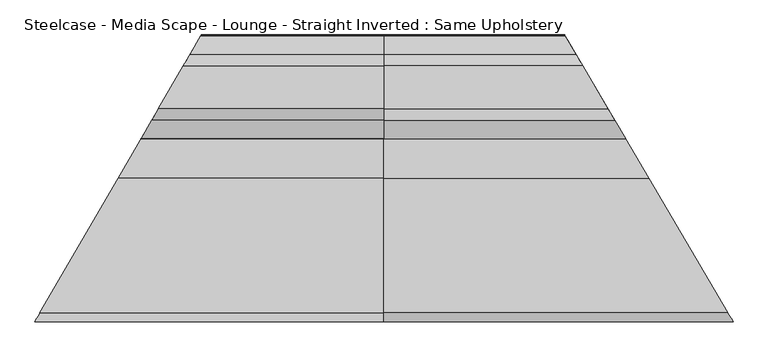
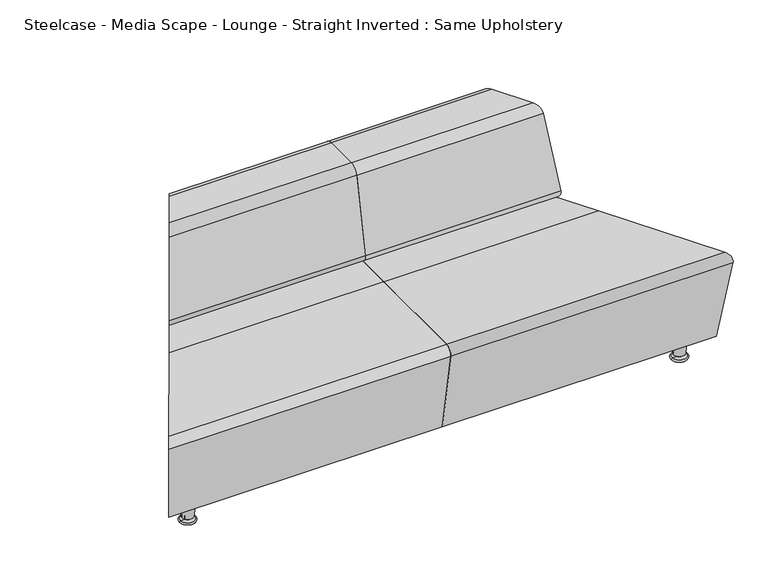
"""IFC4 building model written with IfcOpenShell, lengths in millimetres: furniture geometry, Steelcase - Media Scape - Lounge - Straight Inverted : Same Upholstery."""

from ifc_helpers import new_model, si_unit, point, frame, origin, place, context, project, spatial, polyline, circle_curve, ellipse_curve, trimmed, source, transform, mapped, element, save
from ifc_brep_helpers import plane_surface, cylinder_surface, revolved_surface, advanced_brep


def steelcase_media_scape_lounge_straight_inverted_same_f796253b(model_context):
    return source(origin(), model_context, "Body", "AdvancedBrep", [
        advanced_brep(
        [(1014.6953148, 744.618392, 735.1171206), (1014.6953148, 619.0683436, 735.1171206), (1014.6953148, 585.640659, 707.6422134), (1014.6953148, 531.7822003, 434.7626426), (1014.6953148, 556.7014693, 404.4443065), (1014.6953148, 806.9852663, 404.4443065), (1014.6953148, 831.9045354, 434.7626426), (1014.6953148, 778.0460766, 707.6422134), (451.5898434, 778.0460766, 707.6422134), (432.1879548, 744.618392, 735.1171206), (482.8500347, 831.9045354, 434.7626426), (468.3865477, 806.9852663, 404.4443065), (323.1183847, 556.7014693, 404.4443065), (308.6548977, 531.7822003, 434.7626426), (339.9150889, 585.640659, 707.6422134), (359.3169775, 619.0683436, 735.1171206)],
        [
            (0, 1),
            (1, 2, circle_curve(frame((1014.6953148, 619.0683436, 701.0445646), z_axis=(1.0, 0.0, 0.0), x_axis=(0.0, -1.0, 0.0)), 34.0725559)),
            (2, 3),
            (3, 4, circle_curve(frame((1014.6953148, 556.7014693, 429.8443065), z_axis=(1.0, 0.0, 0.0), x_axis=(0.0, -1.0, 0.0)), 25.4)),
            (4, 5),
            (5, 6, circle_curve(frame((1014.6953148, 806.9852663, 429.8443065), z_axis=(1.0, 0.0, 0.0), x_axis=(0.0, 1.0, 0.0)), 25.4)),
            (6, 7),
            (7, 0, circle_curve(frame((1014.6953148, 744.618392, 701.0445646), z_axis=(1.0, 0.0, 0.0), x_axis=(0.0, 1.0, 0.0)), 34.0725559)),
            (7, 8),
            (8, 9, ellipse_curve(frame((432.1879548, 744.618392, 701.0445646), z_axis=(0.8648758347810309, -0.501985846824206, 0.0), x_axis=(-0.5019858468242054, -0.864875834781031, 0.0)), 39.3958931, 34.0725559)),
            (9, 0),
            (6, 10),
            (10, 8),
            (5, 11),
            (11, 10, ellipse_curve(frame((468.3865477, 806.9852663, 429.8443065), z_axis=(0.8648758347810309, -0.501985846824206, 0.0), x_axis=(-0.5019858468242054, -0.864875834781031, 0.0)), 29.3683775, 25.4)),
            (4, 12),
            (12, 11),
            (3, 13),
            (13, 12, ellipse_curve(frame((323.1183847, 556.7014693, 429.8443065), z_axis=(0.8648758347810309, -0.501985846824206, 0.0), x_axis=(-0.5019858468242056, -0.864875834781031, 0.0)), 29.3683775, 25.4)),
            (2, 14),
            (14, 13),
            (1, 15),
            (15, 14, ellipse_curve(frame((359.3169775, 619.0683436, 701.0445646), z_axis=(0.8648758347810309, -0.501985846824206, 0.0), x_axis=(-0.5019858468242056, -0.864875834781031, 0.0)), 39.3958931, 34.0725559)),
            (9, 15),
        ],
        [
            plane_surface(frame((1014.6953148, 778.690948, 701.0445646), z_axis=(1.0, 0.0, 0.0), x_axis=(0.0, 0.0, 1.0))),
            cylinder_surface(frame((1014.6953148, 744.618392, 701.0445646), z_axis=(-1.0, 0.0, 0.0), x_axis=(0.0, 1.0, 0.0)), 34.0725559),
            plane_surface(frame((0.0, 778.0460766, 707.6422134), z_axis=(0.0, 0.9810735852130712, 0.19363527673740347), x_axis=(1.0, 0.0, 0.0))),
            cylinder_surface(frame((1014.6953148, 806.9852663, 429.8443065), z_axis=(-1.0, 0.0, 0.0), x_axis=(0.0, 1.0, 0.0)), 25.4),
            plane_surface(frame((0.0, 806.9852663, 404.4443065), z_axis=(0.0, 0.0, -1.0), x_axis=(1.0, 0.0, 0.0))),
            cylinder_surface(frame((1014.6953148, 556.7014693, 429.8443065), z_axis=(-1.0, 0.0, 0.0), x_axis=(0.0, -1.0, 0.0)), 25.4),
            plane_surface(frame((0.0, 531.7822003, 434.7626426), z_axis=(0.0, -0.9810735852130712, 0.19363527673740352), x_axis=(1.0, 0.0, 0.0))),
            cylinder_surface(frame((1014.6953148, 619.0683436, 701.0445646), z_axis=(-1.0, 0.0, 0.0), x_axis=(0.0, -1.0, 0.0)), 34.0725559),
            plane_surface(frame((0.0, 619.0683436, 735.1171206), z_axis=(0.0, 0.0, 1.0), x_axis=(1.0, 0.0, 0.0))),
            plane_surface(frame((-97.2912411, -167.6259759, 735.3711206), z_axis=(-0.8648758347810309, 0.501985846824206, 0.0), x_axis=(0.0, 0.0, -1.0))),
        ],
        [
            (0, [[1, 2, 3, 4, 5, 6, 7, 8]]),
            (1, [[-8, 9, 10, 11]]),
            (2, [[-7, 12, 13, -9]]),
            (3, [[-6, 14, 15, -12]]),
            (4, [[-5, 16, 17, -14]]),
            (5, [[-4, 18, 19, -16]]),
            (6, [[-3, 20, 21, -18]]),
            (7, [[-2, 22, 23, -20]]),
            (8, [[-1, -11, 24, -22]]),
            (9, [[-10, -13, -15, -17, -19, -21, -23, -24]]),
        ],
    ),
        advanced_brep(
        [(1014.6953148, 744.618392, 735.1171206), (1014.6953148, 778.0460766, 707.6422134), (1014.6953148, 831.9045354, 434.7626426), (1014.6953148, 806.9852663, 404.4443065), (1014.6953148, 556.7014693, 404.4443065), (1014.6953148, 531.7822003, 434.7626426), (1014.6953148, 585.640659, 707.6422134), (1014.6953148, 619.0683436, 735.1171206), (1666.696286, 619.0683436, 735.1171206), (1592.8622125, 744.618392, 735.1171206), (1686.3545988, 585.640659, 707.6422134), (1718.027939, 531.7822003, 434.7626426), (1703.373296, 556.7014693, 404.4443065), (1556.1852025, 806.9852663, 404.4443065), (1541.5305594, 831.9045354, 434.7626426), (1573.2038997, 778.0460766, 707.6422134)],
        [
            (0, 1, circle_curve(frame((1014.6953148, 744.618392, 701.0445646), z_axis=(-1.0, 0.0, 0.0), x_axis=(0.0, 1.0, 0.0)), 34.0725559)),
            (1, 2),
            (2, 3, circle_curve(frame((1014.6953148, 806.9852663, 429.8443065), z_axis=(-1.0, 0.0, 0.0), x_axis=(0.0, 1.0, 0.0)), 25.4)),
            (3, 4),
            (4, 5, circle_curve(frame((1014.6953148, 556.7014693, 429.8443065), z_axis=(-1.0, 0.0, 0.0), x_axis=(0.0, -1.0, 0.0)), 25.4)),
            (5, 6),
            (6, 7, circle_curve(frame((1014.6953148, 619.0683436, 701.0445646), z_axis=(-1.0, 0.0, 0.0), x_axis=(0.0, -1.0, 0.0)), 34.0725559)),
            (7, 0),
            (7, 8),
            (8, 9),
            (9, 0),
            (6, 10),
            (10, 8, ellipse_curve(frame((1666.696286, 619.0683436, 701.0445646), z_axis=(-0.8619909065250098, -0.5069237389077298, 0.0), x_axis=(0.5069237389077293, -0.8619909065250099, 0.0)), 39.5277441, 34.0725559)),
            (5, 11),
            (11, 10),
            (4, 12),
            (12, 11, ellipse_curve(frame((1703.373296, 556.7014693, 429.8443065), z_axis=(-0.8619909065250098, -0.5069237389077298, 0.0), x_axis=(0.5069237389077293, -0.8619909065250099, 0.0)), 29.4666682, 25.4)),
            (3, 13),
            (13, 12),
            (2, 14),
            (14, 13, ellipse_curve(frame((1556.1852025, 806.9852663, 429.8443065), z_axis=(-0.8619909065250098, -0.5069237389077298, 0.0), x_axis=(0.5069237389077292, -0.8619909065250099, 0.0)), 29.4666682, 25.4)),
            (1, 15),
            (15, 14),
            (9, 15, ellipse_curve(frame((1592.8622125, 744.618392, 701.0445646), z_axis=(-0.8619909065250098, -0.5069237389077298, 0.0), x_axis=(0.5069237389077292, -0.8619909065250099, 0.0)), 39.5277441, 34.0725559)),
        ],
        [
            plane_surface(frame((1014.6953148, 567.2050656, 735.1171206), z_axis=(-1.0, 0.0, 0.0), x_axis=(0.0, 1.0, 0.0))),
            plane_surface(frame((2041.4176852, 744.618392, 735.1171206), z_axis=(0.0, 0.0, 1.0), x_axis=(-1.0, 0.0, 0.0))),
            cylinder_surface(frame((1014.6953148, 619.0683436, 701.0445646), z_axis=(1.0, 0.0, 0.0), x_axis=(0.0, -1.0, 0.0)), 34.0725559),
            plane_surface(frame((2041.4176852, 585.640659, 707.6422134), z_axis=(0.0, -0.9810735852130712, 0.19363527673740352), x_axis=(-1.0, 0.0, 0.0))),
            cylinder_surface(frame((1014.6953148, 556.7014693, 429.8443065), z_axis=(1.0, 0.0, 0.0), x_axis=(0.0, -1.0, 0.0)), 25.4),
            plane_surface(frame((2041.4176852, 556.7014693, 404.4443065), z_axis=(0.0, 0.0, -1.0), x_axis=(-1.0, 0.0, 0.0))),
            cylinder_surface(frame((1014.6953148, 806.9852663, 429.8443065), z_axis=(1.0, 0.0, 0.0), x_axis=(0.0, 1.0, 0.0)), 25.4),
            plane_surface(frame((2041.4176852, 831.9045354, 434.7626426), z_axis=(0.0, 0.9810735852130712, 0.19363527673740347), x_axis=(-1.0, 0.0, 0.0))),
            cylinder_surface(frame((1014.6953148, 744.618392, 701.0445646), z_axis=(1.0, 0.0, 0.0), x_axis=(0.0, 1.0, 0.0)), 34.0725559),
            plane_surface(frame((1493.0162317, 914.4, 763.7516668), z_axis=(0.8619909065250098, 0.5069237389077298, 0.0), x_axis=(0.0, 0.0, -1.0))),
        ],
        [
            (0, [[1, 2, 3, 4, 5, 6, 7, 8]]),
            (1, [[-8, 9, 10, 11]]),
            (2, [[-7, 12, 13, -9]]),
            (3, [[-6, 14, 15, -12]]),
            (4, [[-5, 16, 17, -14]]),
            (5, [[-4, 18, 19, -16]]),
            (6, [[-3, 20, 21, -18]]),
            (7, [[-2, 22, 23, -20]]),
            (8, [[-1, -11, 24, -22]]),
            (9, [[-10, -13, -15, -17, -19, -21, -23, -24]]),
        ],
    ),
        advanced_brep(
        [(1014.6953148, 416.9525328, 404.4443065), (1014.6953148, 808.4584998, 404.4443065), (1014.6953148, 833.4999769, 374.7917281), (1014.6953148, 782.5280351, 74.6414242), (1014.6953148, 416.9525328, 74.6414242), (1014.6953148, 51.3770305, 74.6414242), (1014.6953148, 0.4050887, 374.7917281), (1014.6953148, 25.4465658, 404.4443065), (1785.5575196, 416.9525328, 404.4443065), (1555.3188163, 808.4584998, 404.4443065), (1540.5923045, 833.4999769, 374.7917281), (1570.5681281, 782.5280351, 74.6414242), (1785.5575196, 416.9525328, 74.6414242), (2000.5469111, 51.3770305, 74.6414242), (2030.5227347, 0.4050887, 374.7917281), (2015.7962229, 25.4465658, 404.4443065)],
        [
            (0, 1),
            (1, 2, circle_curve(frame((1014.6953148, 808.4584998, 379.0443065), z_axis=(-1.0, 0.0, 0.0), x_axis=(0.0, 1.0, 0.0)), 25.4)),
            (2, 3),
            (3, 4),
            (4, 5),
            (5, 6),
            (6, 7, circle_curve(frame((1014.6953148, 25.4465658, 379.0443065), z_axis=(-1.0, 0.0, 0.0), x_axis=(0.0, -1.0, 0.0)), 25.4)),
            (7, 0),
            (0, 8),
            (8, 9),
            (9, 1),
            (9, 10, ellipse_curve(frame((1555.3188163, 808.4584998, 379.0443065), z_axis=(-0.8619909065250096, -0.5069237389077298, 0.0), x_axis=(-0.5069237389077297, 0.8619909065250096, 0.0)), 29.4666682, 25.4)),
            (10, 2),
            (10, 11),
            (11, 3),
            (11, 12),
            (12, 4),
            (12, 13),
            (13, 5),
            (13, 14),
            (14, 6),
            (14, 15, ellipse_curve(frame((2015.7962229, 25.4465658, 379.0443065), z_axis=(-0.8619909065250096, -0.5069237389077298, 0.0), x_axis=(-0.5069237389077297, 0.8619909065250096, 0.0)), 29.4666682, 25.4)),
            (15, 7),
            (15, 8),
        ],
        [
            plane_surface(frame((1014.6953148, 891.4773142, 404.4443065), z_axis=(-1.0, 0.0, 0.0), x_axis=(0.0, 1.0, 0.0))),
            plane_surface(frame((1014.6953148, 416.9525328, 404.4443065), z_axis=(0.0, 0.0, 1.0), x_axis=(1.0, 0.0, 0.0))),
            cylinder_surface(frame((2041.4176852, 808.4584998, 379.0443065), z_axis=(-1.0, 0.0, 0.0), x_axis=(0.0, 1.0, 0.0)), 25.4),
            plane_surface(frame((1014.6953148, 833.4999769, 374.7917281), z_axis=(0.0, 0.9858849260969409, -0.1674243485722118), x_axis=(1.0, 0.0, 0.0))),
            plane_surface(frame((1014.6953148, 782.5280351, 74.6414242), z_axis=(0.0, 0.0, -1.0), x_axis=(1.0, 0.0, 0.0))),
            plane_surface(frame((1014.6953148, 416.9525328, 74.6414242), z_axis=(0.0, 0.0, -1.0), x_axis=(1.0, 0.0, 0.0))),
            plane_surface(frame((1014.6953148, 51.3770305, 74.6414242), z_axis=(0.0, -0.9858849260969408, -0.16742434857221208), x_axis=(1.0, 0.0, 0.0))),
            cylinder_surface(frame((2041.4176852, 25.4465658, 379.0443065), z_axis=(-1.0, 0.0, 0.0), x_axis=(0.0, -1.0, 0.0)), 25.4),
            plane_surface(frame((1014.6953148, 25.4465658, 404.4443065), z_axis=(0.0, 0.0, 1.0), x_axis=(1.0, 0.0, 0.0))),
            plane_surface(frame((1493.0162317, 914.4, 735.3711206), z_axis=(0.8619909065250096, 0.5069237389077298, 0.0), x_axis=(0.0, 0.0, -1.0))),
        ],
        [
            (0, [[1, 2, 3, 4, 5, 6, 7, 8]]),
            (1, [[-1, 9, 10, 11]]),
            (2, [[-2, -11, 12, 13]]),
            (3, [[-3, -13, 14, 15]]),
            (4, [[-4, -15, 16, 17]]),
            (5, [[-5, -17, 18, 19]]),
            (6, [[-6, -19, 20, 21]]),
            (7, [[-7, -21, 22, 23]]),
            (8, [[-8, -23, 24, -9]]),
            (9, [[-10, -24, -22, -20, -18, -16, -14, -12]]),
        ],
    ),
        advanced_brep(
        [(1014.6953148, 416.9525328, 404.4443065), (1014.6953148, 25.4465658, 404.4443065), (1014.6953148, 0.4050887, 374.7917281), (1014.6953148, 51.3770305, 74.6414242), (1014.6953148, 416.9525328, 74.6414242), (1014.6953148, 782.5280351, 74.6414242), (1014.6953148, 833.4999769, 374.7917281), (1014.6953148, 808.4584998, 404.4443065), (242.0061771, 416.9525328, 404.4443065), (14.7707214, 25.4465658, 404.4443065), (0.2363032, 0.4050887, 374.7917281), (29.8211203, 51.3770305, 74.6414242), (242.0061771, 416.9525328, 74.6414242), (454.1912338, 782.5280351, 74.6414242), (483.7760509, 833.4999769, 374.7917281), (469.2416327, 808.4584998, 404.4443065)],
        [
            (0, 1),
            (1, 2, circle_curve(frame((1014.6953148, 25.4465658, 379.0443065), z_axis=(1.0, 0.0, 0.0), x_axis=(0.0, -1.0, 0.0)), 25.4)),
            (2, 3),
            (3, 4),
            (4, 5),
            (5, 6),
            (6, 7, circle_curve(frame((1014.6953148, 808.4584998, 379.0443065), z_axis=(1.0, 0.0, 0.0), x_axis=(0.0, 1.0, 0.0)), 25.4)),
            (7, 0),
            (0, 8),
            (8, 9),
            (9, 1),
            (9, 10, ellipse_curve(frame((14.7707214, 25.4465658, 379.0443065), z_axis=(0.8648758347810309, -0.501985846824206, 0.0), x_axis=(0.5019858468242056, 0.864875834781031, 0.0)), 29.3683775, 25.4)),
            (10, 2),
            (10, 11),
            (11, 3),
            (11, 12),
            (12, 4),
            (12, 13),
            (13, 5),
            (13, 14),
            (14, 6),
            (14, 15, ellipse_curve(frame((469.2416327, 808.4584998, 379.0443065), z_axis=(0.8648758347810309, -0.501985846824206, 0.0), x_axis=(0.5019858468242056, 0.864875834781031, 0.0)), 29.3683775, 25.4)),
            (15, 7),
            (15, 8),
        ],
        [
            plane_surface(frame((1014.6953148, -57.5722485, 404.4443065), z_axis=(1.0, 0.0, 0.0), x_axis=(0.0, -1.0, 0.0))),
            plane_surface(frame((1014.6953148, 416.9525328, 404.4443065), z_axis=(0.0, 0.0, 1.0), x_axis=(-1.0, 0.0, 0.0))),
            cylinder_surface(frame((0.0, 25.4465658, 379.0443065), z_axis=(1.0, 0.0, 0.0), x_axis=(0.0, -1.0, 0.0)), 25.4),
            plane_surface(frame((1014.6953148, 0.4050887, 374.7917281), z_axis=(0.0, -0.9858849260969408, -0.16742434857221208), x_axis=(-1.0, 0.0, 0.0))),
            plane_surface(frame((1014.6953148, 51.3770305, 74.6414242), z_axis=(0.0, 0.0, -1.0), x_axis=(-1.0, 0.0, 0.0))),
            plane_surface(frame((1014.6953148, 416.9525328, 74.6414242), z_axis=(0.0, 0.0, -1.0), x_axis=(-1.0, 0.0, 0.0))),
            plane_surface(frame((1014.6953148, 782.5280351, 74.6414242), z_axis=(0.0, 0.9858849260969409, -0.1674243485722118), x_axis=(-1.0, 0.0, 0.0))),
            cylinder_surface(frame((0.0, 808.4584998, 379.0443065), z_axis=(1.0, 0.0, 0.0), x_axis=(0.0, 1.0, 0.0)), 25.4),
            plane_surface(frame((1014.6953148, 808.4584998, 404.4443065), z_axis=(0.0, 0.0, 1.0), x_axis=(-1.0, 0.0, 0.0))),
            plane_surface(frame((-97.2912411, -167.6259759, 735.3711206), z_axis=(-0.8648758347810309, 0.501985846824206, 0.0), x_axis=(0.0, 0.0, -1.0))),
        ],
        [
            (0, [[1, 2, 3, 4, 5, 6, 7, 8]]),
            (1, [[-1, 9, 10, 11]]),
            (2, [[-2, -11, 12, 13]]),
            (3, [[-3, -13, 14, 15]]),
            (4, [[-4, -15, 16, 17]]),
            (5, [[-5, -17, 18, 19]]),
            (6, [[-6, -19, 20, 21]]),
            (7, [[-7, -21, 22, 23]]),
            (8, [[-8, -23, 24, -9]]),
            (9, [[-10, -24, -22, -20, -18, -16, -14, -12]]),
        ],
    ),
        advanced_brep(
        [(1545.570234, 722.5255264, 74.1561731), (1569.3571541, 722.5255264, 74.1561731), (1521.7833138, 722.5255264, 74.1561731), (1519.5165917, 722.5255264, 0.0), (1571.6238762, 722.5255264, 0.0), (1545.570234, 722.5255264, 0.0), (1519.5165917, 722.5255264, 6.3788302), (1571.6238762, 722.5255264, 6.3788302), (1536.045234, 722.5255264, 6.3788302), (1555.095234, 722.5255264, 6.3788302), (1536.045234, 722.5255264, 17.057519), (1555.095234, 722.5255264, 17.057519), (1524.6151177, 722.5255264, 17.057519), (1566.5253502, 722.5255264, 17.057519)],
        [
            (0, 1),
            (1, 2, circle_curve(frame((1545.570234, 722.5255264, 74.1561731), z_axis=(0.0, 0.0, 1.0), x_axis=(1.0, 0.0, 0.0)), 23.7869202)),
            (2, 0),
            (2, 1, circle_curve(frame((1545.570234, 722.5255264, 74.1561731), z_axis=(0.0, 0.0, 1.0), x_axis=(1.0, 0.0, 0.0)), 23.7869202)),
            (3, 4, circle_curve(frame((1545.570234, 722.5255264, 0.0), z_axis=(0.0, 0.0, -1.0), x_axis=(1.0, 0.0, 0.0)), 26.0536423)),
            (4, 5),
            (5, 3),
            (4, 3, circle_curve(frame((1545.570234, 722.5255264, 0.0), z_axis=(0.0, 0.0, -1.0), x_axis=(1.0, 0.0, 0.0)), 26.0536423)),
            (6, 7, circle_curve(frame((1545.570234, 722.5255264, 6.3788302), z_axis=(0.0, 0.0, -1.0), x_axis=(1.0, 0.0, 0.0)), 26.0536423)),
            (7, 4, circle_curve(frame((1571.6238762, 722.5255264, 3.1894151), z_axis=(0.0, 1.0, 0.0), x_axis=(1.0, 0.0, 0.0)), 3.1894151)),
            (3, 6, circle_curve(frame((1519.5165917, 722.5255264, 3.1894151), z_axis=(0.0, 1.0, 0.0), x_axis=(-1.0, 0.0, 0.0)), 3.1894151)),
            (7, 6, circle_curve(frame((1545.570234, 722.5255264, 6.3788302), z_axis=(0.0, 0.0, -1.0), x_axis=(1.0, 0.0, 0.0)), 26.0536423)),
            (8, 9, circle_curve(frame((1545.570234, 722.5255264, 6.3788302), z_axis=(0.0, 0.0, -1.0), x_axis=(1.0, 0.0, 0.0)), 9.525)),
            (9, 7),
            (6, 8),
            (9, 8, circle_curve(frame((1545.570234, 722.5255264, 6.3788302), z_axis=(0.0, 0.0, -1.0), x_axis=(1.0, 0.0, 0.0)), 9.525)),
            (10, 11, circle_curve(frame((1545.570234, 722.5255264, 17.057519), z_axis=(0.0, 0.0, -1.0), x_axis=(1.0, 0.0, 0.0)), 9.525)),
            (11, 9),
            (8, 10),
            (11, 10, circle_curve(frame((1545.570234, 722.5255264, 17.057519), z_axis=(0.0, 0.0, -1.0), x_axis=(1.0, 0.0, 0.0)), 9.525)),
            (12, 13, circle_curve(frame((1545.570234, 722.5255264, 17.057519), z_axis=(0.0, 0.0, -1.0), x_axis=(1.0, 0.0, 0.0)), 20.9551163)),
            (13, 11),
            (10, 12),
            (13, 12, circle_curve(frame((1545.570234, 722.5255264, 17.057519), z_axis=(0.0, 0.0, -1.0), x_axis=(1.0, 0.0, 0.0)), 20.9551163)),
            (1, 13),
            (12, 2),
        ],
        [
            plane_surface(frame((1545.570234, 722.5255264, 74.1561731), z_axis=(0.0, 0.0, 1.0), x_axis=(1.0, 0.0, 0.0))),
            plane_surface(frame((1545.570234, 722.5255264, 0.0), z_axis=(0.0, 0.0, -1.0), x_axis=(1.0, 0.0, 0.0))),
            revolved_surface(trimmed(ellipse_curve(frame((1571.6238762, 722.5255264, 3.1894151), z_axis=(0.0, -1.0, 0.0), x_axis=(1.0, 0.0, 0.0)), 3.1894151, 3.1894151), [point((1571.6238762, 722.5255264, 0.0))], [point((1571.6238762, 722.5255264, 6.3788302))], True, "CARTESIAN"), (1545.570234, 722.5255264, 61.4561731), (0.0, 0.0, 1.0)),
            plane_surface(frame((1545.570234, 722.5255264, 6.3788302), z_axis=(0.0, 0.0, 1.0), x_axis=(1.0, 0.0, 0.0))),
            cylinder_surface(frame((1545.570234, 722.5255264, 61.4561731), z_axis=(0.0, 0.0, 1.0), x_axis=(1.0, 0.0, 0.0)), 9.525),
            plane_surface(frame((1545.570234, 722.5255264, 17.057519), z_axis=(0.0, 0.0, -1.0), x_axis=(1.0, 0.0, 0.0))),
            revolved_surface(polyline([(1566.5253502, 722.5255264, 17.057519), (1569.3571541, 722.5255264, 74.1561731)]), (1545.570234, 722.5255264, 61.4561731), (0.0, 0.0, 1.0)),
        ],
        [
            (0, [[1, 2, 3]]),
            (0, [[-3, 4, -1]]),
            (1, [[5, 6, 7]]),
            (1, [[8, -7, -6]]),
            (2, [[9, 10, -5, 11]]),
            (2, [[12, -11, -8, -10]]),
            (3, [[13, 14, -9, 15]]),
            (3, [[16, -15, -12, -14]]),
            (4, [[17, 18, -13, 19]]),
            (4, [[20, -19, -16, -18]]),
            (5, [[21, 22, -17, 23]]),
            (5, [[24, -23, -20, -22]]),
            (6, [[-2, 25, -21, 26]]),
            (6, [[-4, -26, -24, -25]]),
        ],
    ),
        advanced_brep(
        [(1896.0976754, 102.3340218, 74.1561731), (1919.8845955, 102.3340218, 74.1561731), (1872.3107552, 102.3340218, 74.1561731), (1870.0440331, 102.3340218, 0.0), (1922.1513176, 102.3340218, 0.0), (1896.0976754, 102.3340218, 0.0), (1870.0440331, 102.3340218, 6.3788302), (1922.1513176, 102.3340218, 6.3788302), (1886.5726754, 102.3340218, 6.3788302), (1905.6226754, 102.3340218, 6.3788302), (1886.5726754, 102.3340218, 17.057519), (1905.6226754, 102.3340218, 17.057519), (1875.1425591, 102.3340218, 17.057519), (1917.0527916, 102.3340218, 17.057519)],
        [
            (0, 1),
            (1, 2, circle_curve(frame((1896.0976754, 102.3340218, 74.1561731), z_axis=(0.0, 0.0, 1.0), x_axis=(1.0, 0.0, 0.0)), 23.7869202)),
            (2, 0),
            (2, 1, circle_curve(frame((1896.0976754, 102.3340218, 74.1561731), z_axis=(0.0, 0.0, 1.0), x_axis=(1.0, 0.0, 0.0)), 23.7869202)),
            (3, 4, circle_curve(frame((1896.0976754, 102.3340218, 0.0), z_axis=(0.0, 0.0, -1.0), x_axis=(1.0, 0.0, 0.0)), 26.0536423)),
            (4, 5),
            (5, 3),
            (4, 3, circle_curve(frame((1896.0976754, 102.3340218, 0.0), z_axis=(0.0, 0.0, -1.0), x_axis=(1.0, 0.0, 0.0)), 26.0536423)),
            (6, 7, circle_curve(frame((1896.0976754, 102.3340218, 6.3788302), z_axis=(0.0, 0.0, -1.0), x_axis=(1.0, 0.0, 0.0)), 26.0536423)),
            (7, 4, circle_curve(frame((1922.1513176, 102.3340218, 3.1894151), z_axis=(0.0, 1.0, 0.0), x_axis=(1.0, 0.0, 0.0)), 3.1894151)),
            (3, 6, circle_curve(frame((1870.0440331, 102.3340218, 3.1894151), z_axis=(0.0, 1.0, 0.0), x_axis=(-1.0, 0.0, 0.0)), 3.1894151)),
            (7, 6, circle_curve(frame((1896.0976754, 102.3340218, 6.3788302), z_axis=(0.0, 0.0, -1.0), x_axis=(1.0, 0.0, 0.0)), 26.0536423)),
            (8, 9, circle_curve(frame((1896.0976754, 102.3340218, 6.3788302), z_axis=(0.0, 0.0, -1.0), x_axis=(1.0, 0.0, 0.0)), 9.525)),
            (9, 7),
            (6, 8),
            (9, 8, circle_curve(frame((1896.0976754, 102.3340218, 6.3788302), z_axis=(0.0, 0.0, -1.0), x_axis=(1.0, 0.0, 0.0)), 9.525)),
            (10, 11, circle_curve(frame((1896.0976754, 102.3340218, 17.057519), z_axis=(0.0, 0.0, -1.0), x_axis=(1.0, 0.0, 0.0)), 9.525)),
            (11, 9),
            (8, 10),
            (11, 10, circle_curve(frame((1896.0976754, 102.3340218, 17.057519), z_axis=(0.0, 0.0, -1.0), x_axis=(1.0, 0.0, 0.0)), 9.525)),
            (12, 13, circle_curve(frame((1896.0976754, 102.3340218, 17.057519), z_axis=(0.0, 0.0, -1.0), x_axis=(1.0, 0.0, 0.0)), 20.9551163)),
            (13, 11),
            (10, 12),
            (13, 12, circle_curve(frame((1896.0976754, 102.3340218, 17.057519), z_axis=(0.0, 0.0, -1.0), x_axis=(1.0, 0.0, 0.0)), 20.9551163)),
            (1, 13),
            (12, 2),
        ],
        [
            plane_surface(frame((1896.0976754, 102.3340218, 74.1561731), z_axis=(0.0, 0.0, 1.0), x_axis=(1.0, 0.0, 0.0))),
            plane_surface(frame((1896.0976754, 102.3340218, 0.0), z_axis=(0.0, 0.0, -1.0), x_axis=(1.0, 0.0, 0.0))),
            revolved_surface(trimmed(ellipse_curve(frame((1922.1513176, 102.3340218, 3.1894151), z_axis=(0.0, -1.0, 0.0), x_axis=(1.0, 0.0, 0.0)), 3.1894151, 3.1894151), [point((1922.1513176, 102.3340218, 0.0))], [point((1922.1513176, 102.3340218, 6.3788302))], True, "CARTESIAN"), (1896.0976754, 102.3340218, 61.4561731), (0.0, 0.0, 1.0)),
            plane_surface(frame((1896.0976754, 102.3340218, 6.3788302), z_axis=(0.0, 0.0, 1.0), x_axis=(1.0, 0.0, 0.0))),
            cylinder_surface(frame((1896.0976754, 102.3340218, 61.4561731), z_axis=(0.0, 0.0, 1.0), x_axis=(1.0, 0.0, 0.0)), 9.525),
            plane_surface(frame((1896.0976754, 102.3340218, 17.057519), z_axis=(0.0, 0.0, -1.0), x_axis=(1.0, 0.0, 0.0))),
            revolved_surface(polyline([(1917.0527916, 102.3340218, 17.057519), (1919.8845955, 102.3340218, 74.1561731)]), (1896.0976754, 102.3340218, 61.4561731), (0.0, 0.0, 1.0)),
        ],
        [
            (0, [[1, 2, 3]]),
            (0, [[-3, 4, -1]]),
            (1, [[5, 6, 7]]),
            (1, [[8, -7, -6]]),
            (2, [[9, 10, -5, 11]]),
            (2, [[12, -11, -8, -10]]),
            (3, [[13, 14, -9, 15]]),
            (3, [[16, -15, -12, -14]]),
            (4, [[17, 18, -13, 19]]),
            (4, [[20, -19, -16, -18]]),
            (5, [[21, 22, -17, 23]]),
            (5, [[24, -23, -20, -22]]),
            (6, [[-2, 25, -21, 26]]),
            (6, [[-4, -26, -24, -25]]),
        ],
    ),
        advanced_brep(
        [(126.8093937, 102.277914, 74.1561731), (150.5963139, 102.277914, 74.1561731), (103.0224736, 102.277914, 74.1561731), (100.7557515, 102.277914, 0.0), (152.863036, 102.277914, 0.0), (126.8093937, 102.277914, 0.0), (100.7557515, 102.277914, 6.3788302), (152.863036, 102.277914, 6.3788302), (117.2843937, 102.277914, 6.3788302), (136.3343937, 102.277914, 6.3788302), (117.2843937, 102.277914, 17.057519), (136.3343937, 102.277914, 17.057519), (105.8542775, 102.277914, 17.057519), (147.76451, 102.277914, 17.057519)],
        [
            (0, 1),
            (1, 2, circle_curve(frame((126.8093937, 102.277914, 74.1561731), z_axis=(0.0, 0.0, 1.0), x_axis=(1.0, 0.0, 0.0)), 23.7869202)),
            (2, 0),
            (2, 1, circle_curve(frame((126.8093937, 102.277914, 74.1561731), z_axis=(0.0, 0.0, 1.0), x_axis=(1.0, 0.0, 0.0)), 23.7869202)),
            (3, 4, circle_curve(frame((126.8093937, 102.277914, 0.0), z_axis=(0.0, 0.0, -1.0), x_axis=(1.0, 0.0, 0.0)), 26.0536423)),
            (4, 5),
            (5, 3),
            (4, 3, circle_curve(frame((126.8093937, 102.277914, 0.0), z_axis=(0.0, 0.0, -1.0), x_axis=(1.0, 0.0, 0.0)), 26.0536423)),
            (6, 7, circle_curve(frame((126.8093937, 102.277914, 6.3788302), z_axis=(0.0, 0.0, -1.0), x_axis=(1.0, 0.0, 0.0)), 26.0536423)),
            (7, 4, circle_curve(frame((152.863036, 102.277914, 3.1894151), z_axis=(0.0, 1.0, 0.0), x_axis=(1.0, 0.0, 0.0)), 3.1894151)),
            (3, 6, circle_curve(frame((100.7557515, 102.277914, 3.1894151), z_axis=(0.0, 1.0, 0.0), x_axis=(-1.0, 0.0, 0.0)), 3.1894151)),
            (7, 6, circle_curve(frame((126.8093937, 102.277914, 6.3788302), z_axis=(0.0, 0.0, -1.0), x_axis=(1.0, 0.0, 0.0)), 26.0536423)),
            (8, 9, circle_curve(frame((126.8093937, 102.277914, 6.3788302), z_axis=(0.0, 0.0, -1.0), x_axis=(1.0, 0.0, 0.0)), 9.525)),
            (9, 7),
            (6, 8),
            (9, 8, circle_curve(frame((126.8093937, 102.277914, 6.3788302), z_axis=(0.0, 0.0, -1.0), x_axis=(1.0, 0.0, 0.0)), 9.525)),
            (10, 11, circle_curve(frame((126.8093937, 102.277914, 17.057519), z_axis=(0.0, 0.0, -1.0), x_axis=(1.0, 0.0, 0.0)), 9.525)),
            (11, 9),
            (8, 10),
            (11, 10, circle_curve(frame((126.8093937, 102.277914, 17.057519), z_axis=(0.0, 0.0, -1.0), x_axis=(1.0, 0.0, 0.0)), 9.525)),
            (12, 13, circle_curve(frame((126.8093937, 102.277914, 17.057519), z_axis=(0.0, 0.0, -1.0), x_axis=(1.0, 0.0, 0.0)), 20.9551163)),
            (13, 11),
            (10, 12),
            (13, 12, circle_curve(frame((126.8093937, 102.277914, 17.057519), z_axis=(0.0, 0.0, -1.0), x_axis=(1.0, 0.0, 0.0)), 20.9551163)),
            (1, 13),
            (12, 2),
        ],
        [
            plane_surface(frame((126.8093937, 102.277914, 74.1561731), z_axis=(0.0, 0.0, 1.0), x_axis=(1.0, 0.0, 0.0))),
            plane_surface(frame((126.8093937, 102.277914, 0.0), z_axis=(0.0, 0.0, -1.0), x_axis=(1.0, 0.0, 0.0))),
            revolved_surface(trimmed(ellipse_curve(frame((152.863036, 102.277914, 3.1894151), z_axis=(0.0, -1.0, 0.0), x_axis=(1.0, 0.0, 0.0)), 3.1894151, 3.1894151), [point((152.863036, 102.277914, 0.0))], [point((152.863036, 102.277914, 6.3788302))], True, "CARTESIAN"), (126.8093937, 102.277914, 61.4561731), (0.0, 0.0, 1.0)),
            plane_surface(frame((126.8093937, 102.277914, 6.3788302), z_axis=(0.0, 0.0, 1.0), x_axis=(1.0, 0.0, 0.0))),
            cylinder_surface(frame((126.8093937, 102.277914, 61.4561731), z_axis=(0.0, 0.0, 1.0), x_axis=(1.0, 0.0, 0.0)), 9.525),
            plane_surface(frame((126.8093937, 102.277914, 17.057519), z_axis=(0.0, 0.0, -1.0), x_axis=(1.0, 0.0, 0.0))),
            revolved_surface(polyline([(147.76451, 102.277914, 17.057519), (150.5963139, 102.277914, 74.1561731)]), (126.8093937, 102.277914, 61.4561731), (0.0, 0.0, 1.0)),
        ],
        [
            (0, [[1, 2, 3]]),
            (0, [[-3, 4, -1]]),
            (1, [[5, 6, 7]]),
            (1, [[8, -7, -6]]),
            (2, [[9, 10, -5, 11]]),
            (2, [[12, -11, -8, -10]]),
            (3, [[13, 14, -9, 15]]),
            (3, [[16, -15, -12, -14]]),
            (4, [[17, 18, -13, 19]]),
            (4, [[20, -19, -16, -18]]),
            (5, [[21, 22, -17, 23]]),
            (5, [[24, -23, -20, -22]]),
            (6, [[-2, 25, -21, 26]]),
            (6, [[-4, -26, -24, -25]]),
        ],
    ),
        advanced_brep(
        [(477.8028512, 722.5255264, 74.1561731), (501.5897713, 722.5255264, 74.1561731), (454.015931, 722.5255264, 74.1561731), (451.7492089, 722.5255264, 0.0), (503.8564934, 722.5255264, 0.0), (477.8028512, 722.5255264, 0.0), (451.7492089, 722.5255264, 6.3788302), (503.8564934, 722.5255264, 6.3788302), (468.2778512, 722.5255264, 6.3788302), (487.3278512, 722.5255264, 6.3788302), (468.2778512, 722.5255264, 17.057519), (487.3278512, 722.5255264, 17.057519), (456.8477349, 722.5255264, 17.057519), (498.7579674, 722.5255264, 17.057519)],
        [
            (0, 1),
            (1, 2, circle_curve(frame((477.8028512, 722.5255264, 74.1561731), z_axis=(0.0, 0.0, 1.0), x_axis=(1.0, 0.0, 0.0)), 23.7869202)),
            (2, 0),
            (2, 1, circle_curve(frame((477.8028512, 722.5255264, 74.1561731), z_axis=(0.0, 0.0, 1.0), x_axis=(1.0, 0.0, 0.0)), 23.7869202)),
            (3, 4, circle_curve(frame((477.8028512, 722.5255264, 0.0), z_axis=(0.0, 0.0, -1.0), x_axis=(1.0, 0.0, 0.0)), 26.0536423)),
            (4, 5),
            (5, 3),
            (4, 3, circle_curve(frame((477.8028512, 722.5255264, 0.0), z_axis=(0.0, 0.0, -1.0), x_axis=(1.0, 0.0, 0.0)), 26.0536423)),
            (6, 7, circle_curve(frame((477.8028512, 722.5255264, 6.3788302), z_axis=(0.0, 0.0, -1.0), x_axis=(1.0, 0.0, 0.0)), 26.0536423)),
            (7, 4, circle_curve(frame((503.8564934, 722.5255264, 3.1894151), z_axis=(0.0, 1.0, 0.0), x_axis=(1.0, 0.0, 0.0)), 3.1894151)),
            (3, 6, circle_curve(frame((451.7492089, 722.5255264, 3.1894151), z_axis=(0.0, 1.0, 0.0), x_axis=(-1.0, 0.0, 0.0)), 3.1894151)),
            (7, 6, circle_curve(frame((477.8028512, 722.5255264, 6.3788302), z_axis=(0.0, 0.0, -1.0), x_axis=(1.0, 0.0, 0.0)), 26.0536423)),
            (8, 9, circle_curve(frame((477.8028512, 722.5255264, 6.3788302), z_axis=(0.0, 0.0, -1.0), x_axis=(1.0, 0.0, 0.0)), 9.525)),
            (9, 7),
            (6, 8),
            (9, 8, circle_curve(frame((477.8028512, 722.5255264, 6.3788302), z_axis=(0.0, 0.0, -1.0), x_axis=(1.0, 0.0, 0.0)), 9.525)),
            (10, 11, circle_curve(frame((477.8028512, 722.5255264, 17.057519), z_axis=(0.0, 0.0, -1.0), x_axis=(1.0, 0.0, 0.0)), 9.525)),
            (11, 9),
            (8, 10),
            (11, 10, circle_curve(frame((477.8028512, 722.5255264, 17.057519), z_axis=(0.0, 0.0, -1.0), x_axis=(1.0, 0.0, 0.0)), 9.525)),
            (12, 13, circle_curve(frame((477.8028512, 722.5255264, 17.057519), z_axis=(0.0, 0.0, -1.0), x_axis=(1.0, 0.0, 0.0)), 20.9551163)),
            (13, 11),
            (10, 12),
            (13, 12, circle_curve(frame((477.8028512, 722.5255264, 17.057519), z_axis=(0.0, 0.0, -1.0), x_axis=(1.0, 0.0, 0.0)), 20.9551163)),
            (1, 13),
            (12, 2),
        ],
        [
            plane_surface(frame((477.8028512, 722.5255264, 74.1561731), z_axis=(0.0, 0.0, 1.0), x_axis=(1.0, 0.0, 0.0))),
            plane_surface(frame((477.8028512, 722.5255264, 0.0), z_axis=(0.0, 0.0, -1.0), x_axis=(1.0, 0.0, 0.0))),
            revolved_surface(trimmed(ellipse_curve(frame((503.8564934, 722.5255264, 3.1894151), z_axis=(0.0, -1.0, 0.0), x_axis=(1.0, 0.0, 0.0)), 3.1894151, 3.1894151), [point((503.8564934, 722.5255264, 0.0))], [point((503.8564934, 722.5255264, 6.3788302))], True, "CARTESIAN"), (477.8028512, 722.5255264, 61.4561731), (0.0, 0.0, 1.0)),
            plane_surface(frame((477.8028512, 722.5255264, 6.3788302), z_axis=(0.0, 0.0, 1.0), x_axis=(1.0, 0.0, 0.0))),
            cylinder_surface(frame((477.8028512, 722.5255264, 61.4561731), z_axis=(0.0, 0.0, 1.0), x_axis=(1.0, 0.0, 0.0)), 9.525),
            plane_surface(frame((477.8028512, 722.5255264, 17.057519), z_axis=(0.0, 0.0, -1.0), x_axis=(1.0, 0.0, 0.0))),
            revolved_surface(polyline([(498.7579674, 722.5255264, 17.057519), (501.5897713, 722.5255264, 74.1561731)]), (477.8028512, 722.5255264, 61.4561731), (0.0, 0.0, 1.0)),
        ],
        [
            (0, [[1, 2, 3]]),
            (0, [[-3, 4, -1]]),
            (1, [[5, 6, 7]]),
            (1, [[8, -7, -6]]),
            (2, [[9, 10, -5, 11]]),
            (2, [[12, -11, -8, -10]]),
            (3, [[13, 14, -9, 15]]),
            (3, [[16, -15, -12, -14]]),
            (4, [[17, 18, -13, 19]]),
            (4, [[20, -19, -16, -18]]),
            (5, [[21, 22, -17, 23]]),
            (5, [[24, -23, -20, -22]]),
            (6, [[-2, 25, -21, 26]]),
            (6, [[-4, -26, -24, -25]]),
        ],
    ),
    ])


if __name__ == "__main__":
    model = new_model("IFC4")
    model_context = context("Model", 3, world=origin())
    ifc_project = project(units=[si_unit("LENGTHUNIT", "METRE", prefix="MILLI")], contexts=[model_context])
    site = spatial("IfcSite", under=ifc_project)
    building = spatial("IfcBuilding", under=site)
    placement = place(None, origin())
    steelcase_media_scape_lounge_straight_inverted_same_shape = steelcase_media_scape_lounge_straight_inverted_same_f796253b(model_context)
    element("IfcFurniture", 1, ObjectType="Steelcase - Media Scape - Lounge - Straight Inverted : Same Upholstery", at=placement, inside=building, context=model_context, shape_type="MappedRepresentation", body=[
        mapped(steelcase_media_scape_lounge_straight_inverted_same_shape, transform((0.0, 0.0, 0.0), x_axis=(1.0, 0.0, 0.0), y_axis=(0.0, 1.0, 0.0), z_axis=(0.0, 0.0, 1.0))),
    ])
    save(model, "model.ifc")
